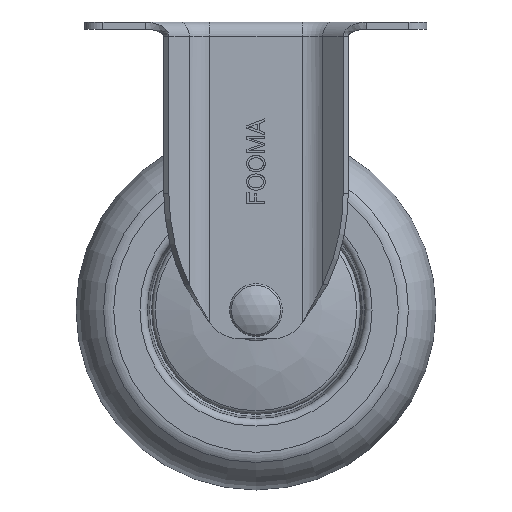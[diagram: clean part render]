
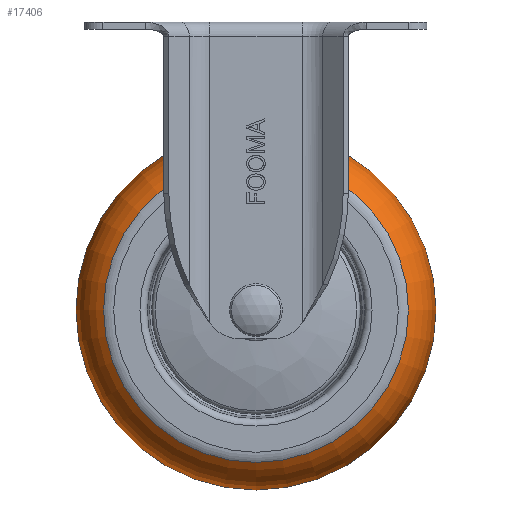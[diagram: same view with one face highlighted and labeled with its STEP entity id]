
A CAD part, front view. The second image highlights one B-rep face of the part: STEP entity #17406.
In plain terms, the highlighted toroidal (fillet/blend) face has major radius 32.404 mm and minor radius 17.6 mm.
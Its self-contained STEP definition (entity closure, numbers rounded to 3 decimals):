
#4608=TOROIDAL_SURFACE('',#18439,32.405,17.6);
#4757=FACE_BOUND('',#5910,.T.);
#4892=FACE_OUTER_BOUND('',#5909,.T.);
#5909=EDGE_LOOP('',(#11617));
#5910=EDGE_LOOP('',(#11618));
#6956=CIRCLE('',#18438,42.343);
#6957=CIRCLE('',#18440,50.);
#7252=VERTEX_POINT('',#24641);
#7253=VERTEX_POINT('',#24644);
#8974=EDGE_CURVE('',#7252,#7252,#6956,.T.);
#8975=EDGE_CURVE('',#7253,#7253,#6957,.T.);
#11617=ORIENTED_EDGE('',*,*,#8974,.T.);
#11618=ORIENTED_EDGE('',*,*,#8975,.F.);
#17406=ADVANCED_FACE('',(#4892,#4757),#4608,.T.);
#18438=AXIS2_PLACEMENT_3D('',#24642,#19814,#19815);
#18439=AXIS2_PLACEMENT_3D('',#24643,#19816,#19817);
#18440=AXIS2_PLACEMENT_3D('',#24645,#19818,#19819);
#19814=DIRECTION('center_axis',(0.,1.,0.));
#19815=DIRECTION('ref_axis',(1.,0.,0.));
#19816=DIRECTION('center_axis',(0.,1.,0.));
#19817=DIRECTION('ref_axis',(0.,0.,1.));
#19818=DIRECTION('center_axis',(0.,1.,0.));
#19819=DIRECTION('ref_axis',(1.,0.,0.));
#24641=CARTESIAN_POINT('',(0.,-14.127,-37.657));
#24642=CARTESIAN_POINT('Origin',(0.,-14.127,-80.));
#24643=CARTESIAN_POINT('Origin',(0.,0.399,-80.));
#24644=CARTESIAN_POINT('',(0.,0.,-30.));
#24645=CARTESIAN_POINT('Origin',(0.,0.,-80.));
